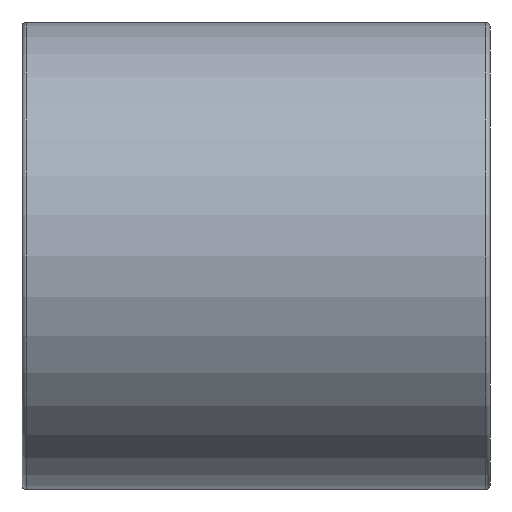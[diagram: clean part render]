
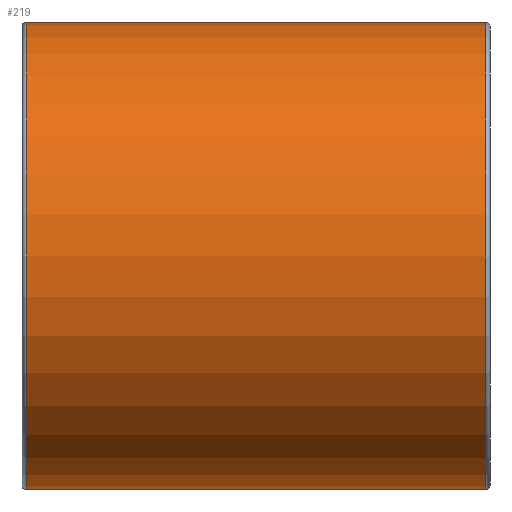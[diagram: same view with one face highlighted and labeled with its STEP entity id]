
A CAD part, front view. The second image highlights one B-rep face of the part: STEP entity #219.
In plain terms, the highlighted cylindrical face has radius 5.555 mm (diameter 11.11 mm), a full revolution.
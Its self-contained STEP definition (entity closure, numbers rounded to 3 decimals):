
#76=CYLINDRICAL_SURFACE('',#240,5.555);
#82=FACE_BOUND('',#114,.T.);
#96=FACE_OUTER_BOUND('',#113,.T.);
#113=EDGE_LOOP('',(#188));
#114=EDGE_LOOP('',(#189));
#141=CIRCLE('',#238,5.555);
#143=CIRCLE('',#241,5.555);
#156=VERTEX_POINT('',#376);
#158=VERTEX_POINT('',#381);
#171=EDGE_CURVE('',#156,#156,#141,.T.);
#173=EDGE_CURVE('',#158,#158,#143,.T.);
#188=ORIENTED_EDGE('',*,*,#173,.F.);
#189=ORIENTED_EDGE('',*,*,#171,.F.);
#219=ADVANCED_FACE('',(#96,#82),#76,.T.);
#238=AXIS2_PLACEMENT_3D('',#377,#286,#287);
#240=AXIS2_PLACEMENT_3D('',#380,#290,#291);
#241=AXIS2_PLACEMENT_3D('',#382,#292,#293);
#286=DIRECTION('center_axis',(1.,0.,0.));
#287=DIRECTION('ref_axis',(0.,-1.,0.));
#290=DIRECTION('center_axis',(1.,0.,0.));
#291=DIRECTION('ref_axis',(0.,1.,0.));
#292=DIRECTION('center_axis',(-1.,0.,0.));
#293=DIRECTION('ref_axis',(0.,-1.,0.));
#376=CARTESIAN_POINT('',(5.465,5.555,0.));
#377=CARTESIAN_POINT('Origin',(5.465,0.,0.));
#380=CARTESIAN_POINT('Origin',(0.,0.,
0.));
#381=CARTESIAN_POINT('',(-5.465,5.555,0.));
#382=CARTESIAN_POINT('Origin',(-5.465,0.,0.));
